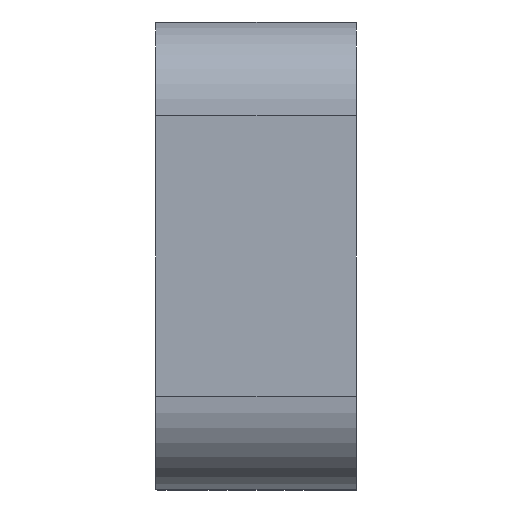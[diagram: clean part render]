
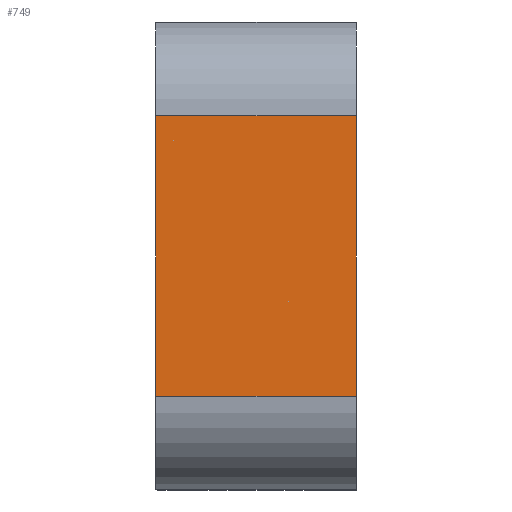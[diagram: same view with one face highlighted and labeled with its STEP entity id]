
A CAD part, left-side view. The second image highlights one B-rep face of the part: STEP entity #749.
In plain terms, the highlighted planar face has unit normal (-1, 0, 0).
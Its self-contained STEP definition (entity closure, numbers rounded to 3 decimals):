
#14=DIRECTION('',(0.,0.,1.));
#15=VECTOR('',#14,42.);
#16=CARTESIAN_POINT('',(0.,-15.,14.));
#17=LINE('',#16,#15);
#206=DIRECTION('',(0.,0.,1.));
#207=VECTOR('',#206,42.);
#208=CARTESIAN_POINT('',(0.,15.,14.));
#209=LINE('',#208,#207);
#254=DIRECTION('',(0.,-1.,0.));
#255=VECTOR('',#254,30.);
#256=CARTESIAN_POINT('',(0.,15.,14.));
#257=LINE('',#256,#255);
#258=DIRECTION('',(0.,-1.,0.));
#259=VECTOR('',#258,30.);
#260=CARTESIAN_POINT('',(0.,15.,56.));
#261=LINE('',#260,#259);
#337=CARTESIAN_POINT('',(0.,-15.,14.));
#339=VERTEX_POINT('',#337);
#343=CARTESIAN_POINT('',(0.,15.,14.));
#344=VERTEX_POINT('',#343);
#346=CARTESIAN_POINT('',(0.,-15.,56.));
#348=VERTEX_POINT('',#346);
#349=CARTESIAN_POINT('',(0.,15.,56.));
#350=VERTEX_POINT('',#349);
#737=CARTESIAN_POINT('',(0.,-15.,0.));
#738=DIRECTION('',(-1.,0.,0.));
#739=DIRECTION('',(0.,0.,1.));
#740=AXIS2_PLACEMENT_3D('',#737,#738,#739);
#741=PLANE('',#740);
#743=ORIENTED_EDGE('',*,*,#742,.F.);
#744=ORIENTED_EDGE('',*,*,#644,.T.);
#745=ORIENTED_EDGE('',*,*,#730,.T.);
#746=ORIENTED_EDGE('',*,*,#424,.F.);
#747=EDGE_LOOP('',(#743,#744,#745,#746));
#748=FACE_OUTER_BOUND('',#747,.F.);
#749=ADVANCED_FACE('',(#748),#741,.T.);
#424=EDGE_CURVE('',#339,#348,#17,.T.);
#644=EDGE_CURVE('',#344,#350,#209,.T.);
#730=EDGE_CURVE('',#350,#348,#261,.T.);
#742=EDGE_CURVE('',#344,#339,#257,.T.);
